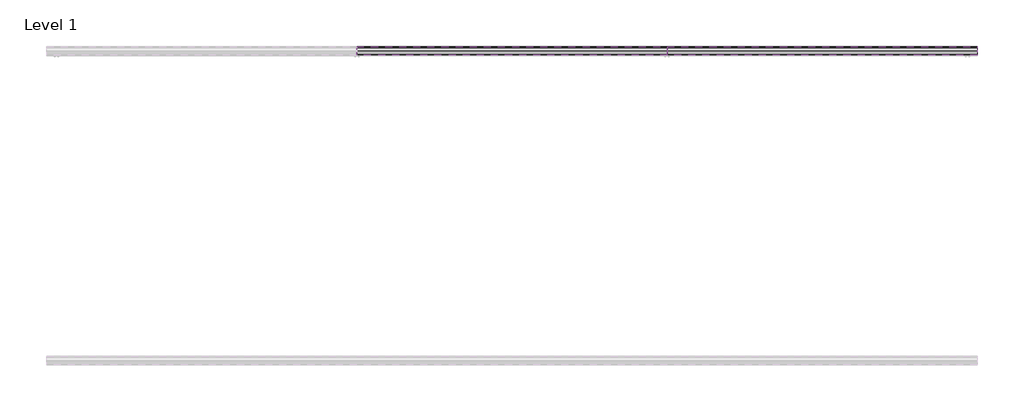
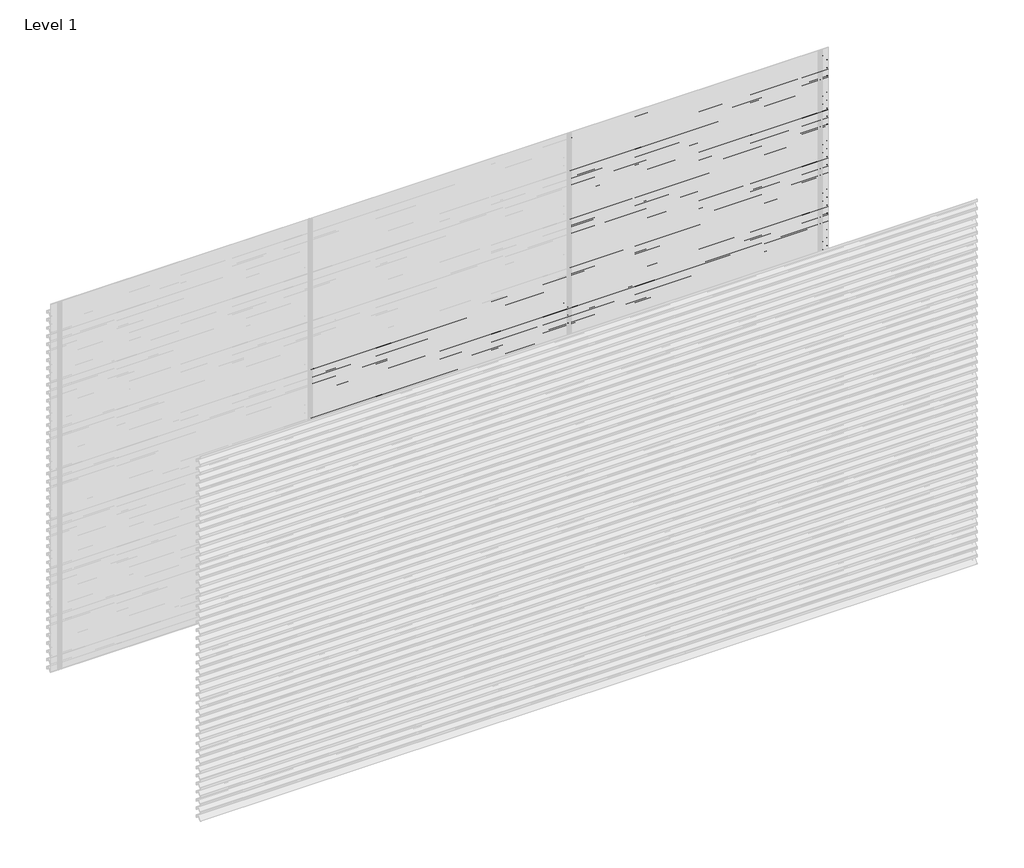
# One storey, part 27 of 27: 73 proxies.
"""IFC4 building model written with IfcOpenShell, lengths in millimetres."""

from ifc_helpers import new_model, si_unit, frame, origin, place, context, project, spatial, polyline, outline, extrude, element, save

model = new_model("IFC4")

# Units and contexts
model_context = context("Model", 3, world=origin())
ifc_project = project(units=[si_unit("LENGTHUNIT", "METRE", prefix="MILLI")], contexts=[model_context])

# Site, building, storey
site = spatial("IfcSite", under=ifc_project)
building = spatial("IfcBuilding", under=site)
storey = spatial("IfcBuildingStorey", under=building, Name="Level 1", Elevation=0.0)

# Proxies
placement = place(None, origin())
element("IfcBuildingElementProxy", 1, Name="Wall Sweeps", at=placement, inside=storey, context=model_context, shape_type="SweptSolid", body=[
    extrude(outline(polyline([(57.0, 1791.2), (57.0, 1771.5), (55.75, 1772.5866084), (55.75, 1790.4872415), (36.9677914, 1803.6010889), (4.8667025, 1771.5), (3.9474637, 1772.4192388), (35.8851913, 1804.3569665), (2.0, 1828.0158044), (2.0, 1848.0), (3.25, 1848.0), (3.25, 1828.7285629), (57.0, 1791.2)])), frame((2000.0, 0.0, 0.0), z_axis=(1.0, 0.0, 0.0), x_axis=(0.0, 1.0, 0.0)), (0.0, 0.0, 1.0), 2000.0),
])
element("IfcBuildingElementProxy", 2, Name="Wall Sweeps", at=placement, inside=storey, context=model_context, shape_type="SweptSolid", body=[
    extrude(outline(polyline([(57.0, 1725.2), (57.0, 1705.5), (55.75, 1706.5866084), (55.75, 1724.4872415), (36.9677914, 1737.6010889), (4.8667025, 1705.5), (3.9474637, 1706.4192388), (35.8851913, 1738.3569665), (2.0, 1762.0158044), (2.0, 1782.0), (3.25, 1782.0), (3.25, 1762.7285629), (57.0, 1725.2)])), frame((2000.0, 0.0, 0.0), z_axis=(1.0, 0.0, 0.0), x_axis=(0.0, 1.0, 0.0)), (0.0, 0.0, 1.0), 2000.0),
])
element("IfcBuildingElementProxy", 3, Name="Wall Sweeps", at=placement, inside=storey, context=model_context, shape_type="SweptSolid", body=[
    extrude(outline(polyline([(57.0, 1659.2), (57.0, 1639.5), (55.75, 1640.5866084), (55.75, 1658.4872415), (36.9677914, 1671.6010889), (4.8667025, 1639.5), (3.9474637, 1640.4192388), (35.8851913, 1672.3569665), (2.0, 1696.0158044), (2.0, 1716.0), (3.25, 1716.0), (3.25, 1696.7285629), (57.0, 1659.2)])), frame((2000.0, 0.0, 0.0), z_axis=(1.0, 0.0, 0.0), x_axis=(0.0, 1.0, 0.0)), (0.0, 0.0, 1.0), 2000.0),
])
element("IfcBuildingElementProxy", 4, Name="Wall Sweeps", at=placement, inside=storey, context=model_context, shape_type="SweptSolid", body=[
    extrude(outline(polyline([(57.0, 1593.2), (57.0, 1573.5), (55.75, 1574.5866084), (55.75, 1592.4872415), (36.9677914, 1605.6010889), (4.8667025, 1573.5), (3.9474637, 1574.4192388), (35.8851913, 1606.3569665), (2.0, 1630.0158044), (2.0, 1650.0), (3.25, 1650.0), (3.25, 1630.7285629), (57.0, 1593.2)])), frame((2000.0, 0.0, 0.0), z_axis=(1.0, 0.0, 0.0), x_axis=(0.0, 1.0, 0.0)), (0.0, 0.0, 1.0), 2000.0),
])
element("IfcBuildingElementProxy", 5, Name="Wall Sweeps", at=placement, inside=storey, context=model_context, shape_type="SweptSolid", body=[
    extrude(outline(polyline([(57.0, 1527.2), (57.0, 1507.5), (55.75, 1508.5866084), (55.75, 1526.4872415), (36.9677914, 1539.6010889), (4.8667025, 1507.5), (3.9474637, 1508.4192388), (35.8851913, 1540.3569665), (2.0, 1564.0158044), (2.0, 1584.0), (3.25, 1584.0), (3.25, 1564.7285629), (57.0, 1527.2)])), frame((2000.0, 0.0, 0.0), z_axis=(1.0, 0.0, 0.0), x_axis=(0.0, 1.0, 0.0)), (0.0, 0.0, 1.0), 2000.0),
])
element("IfcBuildingElementProxy", 6, Name="Wall Sweeps", at=placement, inside=storey, context=model_context, shape_type="SweptSolid", body=[
    extrude(outline(polyline([(57.0, 1461.2), (57.0, 1441.5), (55.75, 1442.5866084), (55.75, 1460.4872415), (36.9677914, 1473.6010889), (4.8667025, 1441.5), (3.9474637, 1442.4192388), (35.8851913, 1474.3569665), (2.0, 1498.0158044), (2.0, 1518.0), (3.25, 1518.0), (3.25, 1498.7285629), (57.0, 1461.2)])), frame((2000.0, 0.0, 0.0), z_axis=(1.0, 0.0, 0.0), x_axis=(0.0, 1.0, 0.0)), (0.0, 0.0, 1.0), 2000.0),
])
element("IfcBuildingElementProxy", 7, Name="Wall Sweeps", at=placement, inside=storey, context=model_context, shape_type="SweptSolid", body=[
    extrude(outline(polyline([(57.0, 1395.2), (57.0, 1375.5), (55.75, 1376.5866084), (55.75, 1394.4872415), (36.9677914, 1407.6010889), (4.8667025, 1375.5), (3.9474637, 1376.4192388), (35.8851913, 1408.3569665), (2.0, 1432.0158044), (2.0, 1452.0), (3.25, 1452.0), (3.25, 1432.7285629), (57.0, 1395.2)])), frame((2000.0, 0.0, 0.0), z_axis=(1.0, 0.0, 0.0), x_axis=(0.0, 1.0, 0.0)), (0.0, 0.0, 1.0), 2000.0),
])
element("IfcBuildingElementProxy", 8, Name="Wall Sweeps", at=placement, inside=storey, context=model_context, shape_type="SweptSolid", body=[
    extrude(outline(polyline([(57.0, 1329.2), (57.0, 1309.5), (55.75, 1310.5866084), (55.75, 1328.4872415), (36.9677914, 1341.6010889), (4.8667025, 1309.5), (3.9474637, 1310.4192388), (35.8851913, 1342.3569665), (2.0, 1366.0158044), (2.0, 1386.0), (3.25, 1386.0), (3.25, 1366.7285629), (57.0, 1329.2)])), frame((2000.0, 0.0, 0.0), z_axis=(1.0, 0.0, 0.0), x_axis=(0.0, 1.0, 0.0)), (0.0, 0.0, 1.0), 2000.0),
])
element("IfcBuildingElementProxy", 9, Name="Wall Sweeps", at=placement, inside=storey, context=model_context, shape_type="SweptSolid", body=[
    extrude(outline(polyline([(57.0, 1263.2), (57.0, 1243.5), (55.75, 1244.5866084), (55.75, 1262.4872415), (36.9677914, 1275.6010889), (4.8667025, 1243.5), (3.9474637, 1244.4192388), (35.8851913, 1276.3569665), (2.0, 1300.0158044), (2.0, 1320.0), (3.25, 1320.0), (3.25, 1300.7285629), (57.0, 1263.2)])), frame((2000.0, 0.0, 0.0), z_axis=(1.0, 0.0, 0.0), x_axis=(0.0, 1.0, 0.0)), (0.0, 0.0, 1.0), 2000.0),
])
element("IfcBuildingElementProxy", 10, Name="Wall Sweeps", at=placement, inside=storey, context=model_context, shape_type="SweptSolid", body=[
    extrude(outline(polyline([(57.0, 1197.2), (57.0, 1177.5), (55.75, 1178.5866084), (55.75, 1196.4872415), (36.9677914, 1209.6010889), (4.8667025, 1177.5), (3.9474637, 1178.4192388), (35.8851913, 1210.3569665), (2.0, 1234.0158044), (2.0, 1254.0), (3.25, 1254.0), (3.25, 1234.7285629), (57.0, 1197.2)])), frame((2000.0, 0.0, 0.0), z_axis=(1.0, 0.0, 0.0), x_axis=(0.0, 1.0, 0.0)), (0.0, 0.0, 1.0), 2000.0),
])
element("IfcBuildingElementProxy", 11, Name="Wall Sweeps", at=placement, inside=storey, context=model_context, shape_type="SweptSolid", body=[
    extrude(outline(polyline([(57.0, 1131.2), (57.0, 1111.5), (55.75, 1112.5866084), (55.75, 1130.4872415), (36.9677914, 1143.6010889), (4.8667025, 1111.5), (3.9474637, 1112.4192388), (35.8851913, 1144.3569665), (2.0, 1168.0158044), (2.0, 1188.0), (3.25, 1188.0), (3.25, 1168.7285629), (57.0, 1131.2)])), frame((2000.0, 0.0, 0.0), z_axis=(1.0, 0.0, 0.0), x_axis=(0.0, 1.0, 0.0)), (0.0, 0.0, 1.0), 2000.0),
])
element("IfcBuildingElementProxy", 12, Name="Wall Sweeps", at=placement, inside=storey, context=model_context, shape_type="SweptSolid", body=[
    extrude(outline(polyline([(57.0, 1065.2), (57.0, 1045.5), (55.75, 1046.5866084), (55.75, 1064.4872415), (36.9677914, 1077.6010889), (4.8667025, 1045.5), (3.9474637, 1046.4192388), (35.8851913, 1078.3569665), (2.0, 1102.0158044), (2.0, 1122.0), (3.25, 1122.0), (3.25, 1102.7285629), (57.0, 1065.2)])), frame((2000.0, 0.0, 0.0), z_axis=(1.0, 0.0, 0.0), x_axis=(0.0, 1.0, 0.0)), (0.0, 0.0, 1.0), 2000.0),
])
element("IfcBuildingElementProxy", 13, Name="Wall Sweeps", at=placement, inside=storey, context=model_context, shape_type="SweptSolid", body=[
    extrude(outline(polyline([(57.0, 999.2), (57.0, 979.5), (55.75, 980.5866084), (55.75, 998.4872415), (36.9677914, 1011.6010889), (4.8667025, 979.5), (3.9474637, 980.4192388), (35.8851913, 1012.3569665), (2.0, 1036.0158044), (2.0, 1056.0), (3.25, 1056.0), (3.25, 1036.7285629), (57.0, 999.2)])), frame((2000.0, 0.0, 0.0), z_axis=(1.0, 0.0, 0.0), x_axis=(0.0, 1.0, 0.0)), (0.0, 0.0, 1.0), 2000.0),
])
element("IfcBuildingElementProxy", 14, Name="Wall Sweeps", at=placement, inside=storey, context=model_context, shape_type="SweptSolid", body=[
    extrude(outline(polyline([(57.0, 933.2), (57.0, 913.5), (55.75, 914.5866084), (55.75, 932.4872415), (36.9677914, 945.6010889), (4.8667025, 913.5), (3.9474637, 914.4192388), (35.8851913, 946.3569665), (2.0, 970.0158044), (2.0, 990.0), (3.25, 990.0), (3.25, 970.7285629), (57.0, 933.2)])), frame((2000.0, 0.0, 0.0), z_axis=(1.0, 0.0, 0.0), x_axis=(0.0, 1.0, 0.0)), (0.0, 0.0, 1.0), 2000.0),
])
element("IfcBuildingElementProxy", 15, Name="Wall Sweeps", at=placement, inside=storey, context=model_context, shape_type="SweptSolid", body=[
    extrude(outline(polyline([(57.0, 867.2), (57.0, 847.5), (55.75, 848.5866084), (55.75, 866.4872415), (36.9677914, 879.6010889), (4.8667025, 847.5), (3.9474637, 848.4192388), (35.8851913, 880.3569665), (2.0, 904.0158044), (2.0, 924.0), (3.25, 924.0), (3.25, 904.7285629), (57.0, 867.2)])), frame((2000.0, 0.0, 0.0), z_axis=(1.0, 0.0, 0.0), x_axis=(0.0, 1.0, 0.0)), (0.0, 0.0, 1.0), 2000.0),
])
element("IfcBuildingElementProxy", 16, Name="Wall Sweeps", at=placement, inside=storey, context=model_context, shape_type="SweptSolid", body=[
    extrude(outline(polyline([(57.0, 801.2), (57.0, 781.5), (55.75, 782.5866084), (55.75, 800.4872415), (36.9677914, 813.6010889), (4.8667025, 781.5), (3.9474637, 782.4192388), (35.8851913, 814.3569665), (2.0, 838.0158044), (2.0, 858.0), (3.25, 858.0), (3.25, 838.7285629), (57.0, 801.2)])), frame((2000.0, 0.0, 0.0), z_axis=(1.0, 0.0, 0.0), x_axis=(0.0, 1.0, 0.0)), (0.0, 0.0, 1.0), 2000.0),
])
element("IfcBuildingElementProxy", 17, Name="Wall Sweeps", at=placement, inside=storey, context=model_context, shape_type="SweptSolid", body=[
    extrude(outline(polyline([(57.0, 735.2), (57.0, 715.5), (55.75, 716.5866084), (55.75, 734.4872415), (36.9677914, 747.6010889), (4.8667025, 715.5), (3.9474637, 716.4192388), (35.8851913, 748.3569665), (2.0, 772.0158044), (2.0, 792.0), (3.25, 792.0), (3.25, 772.7285629), (57.0, 735.2)])), frame((2000.0, 0.0, 0.0), z_axis=(1.0, 0.0, 0.0), x_axis=(0.0, 1.0, 0.0)), (0.0, 0.0, 1.0), 2000.0),
])
element("IfcBuildingElementProxy", 18, Name="Wall Sweeps", at=placement, inside=storey, context=model_context, shape_type="SweptSolid", body=[
    extrude(outline(polyline([(57.0, 669.2), (57.0, 649.5), (55.75, 650.5866084), (55.75, 668.4872415), (36.9677914, 681.6010889), (4.8667025, 649.5), (3.9474637, 650.4192388), (35.8851913, 682.3569665), (2.0, 706.0158044), (2.0, 726.0), (3.25, 726.0), (3.25, 706.7285629), (57.0, 669.2)])), frame((2000.0, 0.0, 0.0), z_axis=(1.0, 0.0, 0.0), x_axis=(0.0, 1.0, 0.0)), (0.0, 0.0, 1.0), 2000.0),
])
element("IfcBuildingElementProxy", 19, Name="Wall Sweeps", at=placement, inside=storey, context=model_context, shape_type="SweptSolid", body=[
    extrude(outline(polyline([(57.0, 603.2), (57.0, 583.5), (55.75, 584.5866084), (55.75, 602.4872415), (36.9677914, 615.6010889), (4.8667025, 583.5), (3.9474637, 584.4192388), (35.8851913, 616.3569665), (2.0, 640.0158044), (2.0, 660.0), (3.25, 660.0), (3.25, 640.7285629), (57.0, 603.2)])), frame((2000.0, 0.0, 0.0), z_axis=(1.0, 0.0, 0.0), x_axis=(0.0, 1.0, 0.0)), (0.0, 0.0, 1.0), 2000.0),
])
element("IfcBuildingElementProxy", 20, Name="Wall Sweeps", at=placement, inside=storey, context=model_context, shape_type="SweptSolid", body=[
    extrude(outline(polyline([(57.0, 537.2), (57.0, 517.5), (55.75, 518.5866084), (55.75, 536.4872415), (36.9677914, 549.6010889), (4.8667025, 517.5), (3.9474637, 518.4192388), (35.8851913, 550.3569665), (2.0, 574.0158044), (2.0, 594.0), (3.25, 594.0), (3.25, 574.7285629), (57.0, 537.2)])), frame((2000.0, 0.0, 0.0), z_axis=(1.0, 0.0, 0.0), x_axis=(0.0, 1.0, 0.0)), (0.0, 0.0, 1.0), 2000.0),
])
element("IfcBuildingElementProxy", 21, Name="Wall Sweeps", at=placement, inside=storey, context=model_context, shape_type="SweptSolid", body=[
    extrude(outline(polyline([(57.0, 471.2), (57.0, 451.5), (55.75, 452.5866084), (55.75, 470.4872415), (36.9677914, 483.6010889), (4.8667025, 451.5), (3.9474637, 452.4192388), (35.8851913, 484.3569665), (2.0, 508.0158044), (2.0, 528.0), (3.25, 528.0), (3.25, 508.7285629), (57.0, 471.2)])), frame((2000.0, 0.0, 0.0), z_axis=(1.0, 0.0, 0.0), x_axis=(0.0, 1.0, 0.0)), (0.0, 0.0, 1.0), 2000.0),
])
element("IfcBuildingElementProxy", 22, Name="Wall Sweeps", at=placement, inside=storey, context=model_context, shape_type="SweptSolid", body=[
    extrude(outline(polyline([(57.0, 405.2), (57.0, 385.5), (55.75, 386.5866084), (55.75, 404.4872415), (36.9677914, 417.6010889), (4.8667025, 385.5), (3.9474637, 386.4192388), (35.8851913, 418.3569665), (2.0, 442.0158044), (2.0, 462.0), (3.25, 462.0), (3.25, 442.7285629), (57.0, 405.2)])), frame((2000.0, 0.0, 0.0), z_axis=(1.0, 0.0, 0.0), x_axis=(0.0, 1.0, 0.0)), (0.0, 0.0, 1.0), 2000.0),
])
element("IfcBuildingElementProxy", 23, Name="Wall Sweeps", at=placement, inside=storey, context=model_context, shape_type="SweptSolid", body=[
    extrude(outline(polyline([(57.0, 339.2), (57.0, 319.5), (55.75, 320.5866084), (55.75, 338.4872415), (36.9677914, 351.6010889), (4.8667025, 319.5), (3.9474637, 320.4192388), (35.8851913, 352.3569665), (2.0, 376.0158044), (2.0, 396.0), (3.25, 396.0), (3.25, 376.7285629), (57.0, 339.2)])), frame((2000.0, 0.0, 0.0), z_axis=(1.0, 0.0, 0.0), x_axis=(0.0, 1.0, 0.0)), (0.0, 0.0, 1.0), 2000.0),
])
element("IfcBuildingElementProxy", 24, Name="Wall Sweeps", at=placement, inside=storey, context=model_context, shape_type="SweptSolid", body=[
    extrude(outline(polyline([(57.0, 273.2), (57.0, 253.5), (55.75, 254.5866084), (55.75, 272.4872415), (36.9677914, 285.6010889), (4.8667025, 253.5), (3.9474637, 254.4192388), (35.8851913, 286.3569665), (2.0, 310.0158044), (2.0, 330.0), (3.25, 330.0), (3.25, 310.7285629), (57.0, 273.2)])), frame((2000.0, 0.0, 0.0), z_axis=(1.0, 0.0, 0.0), x_axis=(0.0, 1.0, 0.0)), (0.0, 0.0, 1.0), 2000.0),
])
element("IfcBuildingElementProxy", 25, Name="Wall Sweeps", at=placement, inside=storey, context=model_context, shape_type="SweptSolid", body=[
    extrude(outline(polyline([(57.0, 207.2), (57.0, 187.5), (55.75, 188.5866084), (55.75, 206.4872415), (36.9677914, 219.6010889), (4.8667025, 187.5), (3.9474637, 188.4192388), (35.8851913, 220.3569665), (2.0, 244.0158044), (2.0, 264.0), (3.25, 264.0), (3.25, 244.7285629), (57.0, 207.2)])), frame((2000.0, 0.0, 0.0), z_axis=(1.0, 0.0, 0.0), x_axis=(0.0, 1.0, 0.0)), (0.0, 0.0, 1.0), 2000.0),
])
element("IfcBuildingElementProxy", 26, Name="Wall Sweeps", at=placement, inside=storey, context=model_context, shape_type="SweptSolid", body=[
    extrude(outline(polyline([(57.0, 141.2), (57.0, 121.5), (55.75, 122.5866084), (55.75, 140.4872415), (36.9677914, 153.6010889), (4.8667025, 121.5), (3.9474637, 122.4192388), (35.8851913, 154.3569665), (2.0, 178.0158044), (2.0, 198.0), (3.25, 198.0), (3.25, 178.7285629), (57.0, 141.2)])), frame((2000.0, 0.0, 0.0), z_axis=(1.0, 0.0, 0.0), x_axis=(0.0, 1.0, 0.0)), (0.0, 0.0, 1.0), 2000.0),
])
element("IfcBuildingElementProxy", 27, Name="Wall Sweeps", at=placement, inside=storey, context=model_context, shape_type="SweptSolid", body=[
    extrude(outline(polyline([(57.0, 75.2), (57.0, 55.5), (55.75, 56.5866084), (55.75, 74.4872415), (36.9677914, 87.6010889), (4.8667025, 55.5), (3.9474637, 56.4192388), (35.8851913, 88.3569665), (2.0, 112.0158044), (2.0, 132.0), (3.25, 132.0), (3.25, 112.7285629), (57.0, 75.2)])), frame((2000.0, 0.0, 0.0), z_axis=(1.0, 0.0, 0.0), x_axis=(0.0, 1.0, 0.0)), (0.0, 0.0, 1.0), 2000.0),
])
element("IfcBuildingElementProxy", 28, Name="Wall Sweeps", at=placement, inside=storey, context=model_context, shape_type="SweptSolid", body=[
    extrude(outline(polyline([(57.0, 9.2), (57.0, -10.5), (55.75, -9.4133916), (55.75, 8.4872415), (36.9677914, 21.6010889), (4.8667025, -10.5), (3.9474637, -9.5807612), (35.8851913, 22.3569665), (2.0, 46.0158044), (2.0, 66.0), (3.25, 66.0), (3.25, 46.7285629), (57.0, 9.2)])), frame((2000.0, 0.0, 0.0), z_axis=(1.0, 0.0, 0.0), x_axis=(0.0, 1.0, 0.0)), (0.0, 0.0, 1.0), 2000.0),
])
element("IfcBuildingElementProxy", 29, Name="Wall Sweeps", at=placement, inside=storey, context=model_context, shape_type="SweptSolid", body=[
    extrude(outline(polyline([(57.0, 2913.2), (57.0, 2893.5), (55.75, 2894.5866084), (55.75, 2912.4872415), (36.9677914, 2925.6010889), (4.8667025, 2893.5), (3.9474637, 2894.4192388), (35.8851913, 2926.3569665), (2.0, 2950.0158044), (2.0, 2970.0), (3.25, 2970.0), (3.25, 2950.7285629), (57.0, 2913.2)])), frame((4000.0, 0.0, 0.0), z_axis=(1.0, 0.0, 0.0), x_axis=(0.0, 1.0, 0.0)), (0.0, 0.0, 1.0), 2000.0),
])
element("IfcBuildingElementProxy", 30, Name="Wall Sweeps", at=placement, inside=storey, context=model_context, shape_type="SweptSolid", body=[
    extrude(outline(polyline([(57.0, 2847.2), (57.0, 2827.5), (55.75, 2828.5866084), (55.75, 2846.4872415), (36.9677914, 2859.6010889), (4.8667025, 2827.5), (3.9474637, 2828.4192388), (35.8851913, 2860.3569665), (2.0, 2884.0158044), (2.0, 2904.0), (3.25, 2904.0), (3.25, 2884.7285629), (57.0, 2847.2)])), frame((4000.0, 0.0, 0.0), z_axis=(1.0, 0.0, 0.0), x_axis=(0.0, 1.0, 0.0)), (0.0, 0.0, 1.0), 2000.0),
])
element("IfcBuildingElementProxy", 31, Name="Wall Sweeps", at=placement, inside=storey, context=model_context, shape_type="SweptSolid", body=[
    extrude(outline(polyline([(57.0, 2781.2), (57.0, 2761.5), (55.75, 2762.5866084), (55.75, 2780.4872415), (36.9677914, 2793.6010889), (4.8667025, 2761.5), (3.9474637, 2762.4192388), (35.8851913, 2794.3569665), (2.0, 2818.0158044), (2.0, 2838.0), (3.25, 2838.0), (3.25, 2818.7285629), (57.0, 2781.2)])), frame((4000.0, 0.0, 0.0), z_axis=(1.0, 0.0, 0.0), x_axis=(0.0, 1.0, 0.0)), (0.0, 0.0, 1.0), 2000.0),
])
element("IfcBuildingElementProxy", 32, Name="Wall Sweeps", at=placement, inside=storey, context=model_context, shape_type="SweptSolid", body=[
    extrude(outline(polyline([(57.0, 2715.2), (57.0, 2695.5), (55.75, 2696.5866084), (55.75, 2714.4872415), (36.9677914, 2727.6010889), (4.8667025, 2695.5), (3.9474637, 2696.4192388), (35.8851913, 2728.3569665), (2.0, 2752.0158044), (2.0, 2772.0), (3.25, 2772.0), (3.25, 2752.7285629), (57.0, 2715.2)])), frame((4000.0, 0.0, 0.0), z_axis=(1.0, 0.0, 0.0), x_axis=(0.0, 1.0, 0.0)), (0.0, 0.0, 1.0), 2000.0),
])
element("IfcBuildingElementProxy", 33, Name="Wall Sweeps", at=placement, inside=storey, context=model_context, shape_type="SweptSolid", body=[
    extrude(outline(polyline([(57.0, 2649.2), (57.0, 2629.5), (55.75, 2630.5866084), (55.75, 2648.4872415), (36.9677914, 2661.6010889), (4.8667025, 2629.5), (3.9474637, 2630.4192388), (35.8851913, 2662.3569665), (2.0, 2686.0158044), (2.0, 2706.0), (3.25, 2706.0), (3.25, 2686.7285629), (57.0, 2649.2)])), frame((4000.0, 0.0, 0.0), z_axis=(1.0, 0.0, 0.0), x_axis=(0.0, 1.0, 0.0)), (0.0, 0.0, 1.0), 2000.0),
])
element("IfcBuildingElementProxy", 34, Name="Wall Sweeps", at=placement, inside=storey, context=model_context, shape_type="SweptSolid", body=[
    extrude(outline(polyline([(57.0, 2583.2), (57.0, 2563.5), (55.75, 2564.5866084), (55.75, 2582.4872415), (36.9677914, 2595.6010889), (4.8667025, 2563.5), (3.9474637, 2564.4192388), (35.8851913, 2596.3569665), (2.0, 2620.0158044), (2.0, 2640.0), (3.25, 2640.0), (3.25, 2620.7285629), (57.0, 2583.2)])), frame((4000.0, 0.0, 0.0), z_axis=(1.0, 0.0, 0.0), x_axis=(0.0, 1.0, 0.0)), (0.0, 0.0, 1.0), 2000.0),
])
element("IfcBuildingElementProxy", 35, Name="Wall Sweeps", at=placement, inside=storey, context=model_context, shape_type="SweptSolid", body=[
    extrude(outline(polyline([(57.0, 2517.2), (57.0, 2497.5), (55.75, 2498.5866084), (55.75, 2516.4872415), (36.9677914, 2529.6010889), (4.8667025, 2497.5), (3.9474637, 2498.4192388), (35.8851913, 2530.3569665), (2.0, 2554.0158044), (2.0, 2574.0), (3.25, 2574.0), (3.25, 2554.7285629), (57.0, 2517.2)])), frame((4000.0, 0.0, 0.0), z_axis=(1.0, 0.0, 0.0), x_axis=(0.0, 1.0, 0.0)), (0.0, 0.0, 1.0), 2000.0),
])
element("IfcBuildingElementProxy", 36, Name="Wall Sweeps", at=placement, inside=storey, context=model_context, shape_type="SweptSolid", body=[
    extrude(outline(polyline([(57.0, 2451.2), (57.0, 2431.5), (55.75, 2432.5866084), (55.75, 2450.4872415), (36.9677914, 2463.6010889), (4.8667025, 2431.5), (3.9474637, 2432.4192388), (35.8851913, 2464.3569665), (2.0, 2488.0158044), (2.0, 2508.0), (3.25, 2508.0), (3.25, 2488.7285629), (57.0, 2451.2)])), frame((4000.0, 0.0, 0.0), z_axis=(1.0, 0.0, 0.0), x_axis=(0.0, 1.0, 0.0)), (0.0, 0.0, 1.0), 2000.0),
])
element("IfcBuildingElementProxy", 37, Name="Wall Sweeps", at=placement, inside=storey, context=model_context, shape_type="SweptSolid", body=[
    extrude(outline(polyline([(57.0, 2385.2), (57.0, 2365.5), (55.75, 2366.5866084), (55.75, 2384.4872415), (36.9677914, 2397.6010889), (4.8667025, 2365.5), (3.9474637, 2366.4192388), (35.8851913, 2398.3569665), (2.0, 2422.0158044), (2.0, 2442.0), (3.25, 2442.0), (3.25, 2422.7285629), (57.0, 2385.2)])), frame((4000.0, 0.0, 0.0), z_axis=(1.0, 0.0, 0.0), x_axis=(0.0, 1.0, 0.0)), (0.0, 0.0, 1.0), 2000.0),
])
element("IfcBuildingElementProxy", 38, Name="Wall Sweeps", at=placement, inside=storey, context=model_context, shape_type="SweptSolid", body=[
    extrude(outline(polyline([(57.0, 2319.2), (57.0, 2299.5), (55.75, 2300.5866084), (55.75, 2318.4872415), (36.9677914, 2331.6010889), (4.8667025, 2299.5), (3.9474637, 2300.4192388), (35.8851913, 2332.3569665), (2.0, 2356.0158044), (2.0, 2376.0), (3.25, 2376.0), (3.25, 2356.7285629), (57.0, 2319.2)])), frame((4000.0, 0.0, 0.0), z_axis=(1.0, 0.0, 0.0), x_axis=(0.0, 1.0, 0.0)), (0.0, 0.0, 1.0), 2000.0),
])
element("IfcBuildingElementProxy", 39, Name="Wall Sweeps", at=placement, inside=storey, context=model_context, shape_type="SweptSolid", body=[
    extrude(outline(polyline([(57.0, 2253.2), (57.0, 2233.5), (55.75, 2234.5866084), (55.75, 2252.4872415), (36.9677914, 2265.6010889), (4.8667025, 2233.5), (3.9474637, 2234.4192388), (35.8851913, 2266.3569665), (2.0, 2290.0158044), (2.0, 2310.0), (3.25, 2310.0), (3.25, 2290.7285629), (57.0, 2253.2)])), frame((4000.0, 0.0, 0.0), z_axis=(1.0, 0.0, 0.0), x_axis=(0.0, 1.0, 0.0)), (0.0, 0.0, 1.0), 2000.0),
])
element("IfcBuildingElementProxy", 40, Name="Wall Sweeps", at=placement, inside=storey, context=model_context, shape_type="SweptSolid", body=[
    extrude(outline(polyline([(57.0, 2187.2), (57.0, 2167.5), (55.75, 2168.5866084), (55.75, 2186.4872415), (36.9677914, 2199.6010889), (4.8667025, 2167.5), (3.9474637, 2168.4192388), (35.8851913, 2200.3569665), (2.0, 2224.0158044), (2.0, 2244.0), (3.25, 2244.0), (3.25, 2224.7285629), (57.0, 2187.2)])), frame((4000.0, 0.0, 0.0), z_axis=(1.0, 0.0, 0.0), x_axis=(0.0, 1.0, 0.0)), (0.0, 0.0, 1.0), 2000.0),
])
element("IfcBuildingElementProxy", 41, Name="Wall Sweeps", at=placement, inside=storey, context=model_context, shape_type="SweptSolid", body=[
    extrude(outline(polyline([(57.0, 2121.2), (57.0, 2101.5), (55.75, 2102.5866084), (55.75, 2120.4872415), (36.9677914, 2133.6010889), (4.8667025, 2101.5), (3.9474637, 2102.4192388), (35.8851913, 2134.3569665), (2.0, 2158.0158044), (2.0, 2178.0), (3.25, 2178.0), (3.25, 2158.7285629), (57.0, 2121.2)])), frame((4000.0, 0.0, 0.0), z_axis=(1.0, 0.0, 0.0), x_axis=(0.0, 1.0, 0.0)), (0.0, 0.0, 1.0), 2000.0),
])
element("IfcBuildingElementProxy", 42, Name="Wall Sweeps", at=placement, inside=storey, context=model_context, shape_type="SweptSolid", body=[
    extrude(outline(polyline([(57.0, 2055.2), (57.0, 2035.5), (55.75, 2036.5866084), (55.75, 2054.4872415), (36.9677914, 2067.6010889), (4.8667025, 2035.5), (3.9474637, 2036.4192388), (35.8851913, 2068.3569665), (2.0, 2092.0158044), (2.0, 2112.0), (3.25, 2112.0), (3.25, 2092.7285629), (57.0, 2055.2)])), frame((4000.0, 0.0, 0.0), z_axis=(1.0, 0.0, 0.0), x_axis=(0.0, 1.0, 0.0)), (0.0, 0.0, 1.0), 2000.0),
])
element("IfcBuildingElementProxy", 43, Name="Wall Sweeps", at=placement, inside=storey, context=model_context, shape_type="SweptSolid", body=[
    extrude(outline(polyline([(57.0, 1989.2), (57.0, 1969.5), (55.75, 1970.5866084), (55.75, 1988.4872415), (36.9677914, 2001.6010889), (4.8667025, 1969.5), (3.9474637, 1970.4192388), (35.8851913, 2002.3569665), (2.0, 2026.0158044), (2.0, 2046.0), (3.25, 2046.0), (3.25, 2026.7285629), (57.0, 1989.2)])), frame((4000.0, 0.0, 0.0), z_axis=(1.0, 0.0, 0.0), x_axis=(0.0, 1.0, 0.0)), (0.0, 0.0, 1.0), 2000.0),
])
element("IfcBuildingElementProxy", 44, Name="Wall Sweeps", at=placement, inside=storey, context=model_context, shape_type="SweptSolid", body=[
    extrude(outline(polyline([(57.0, 1923.2), (57.0, 1903.5), (55.75, 1904.5866084), (55.75, 1922.4872415), (36.9677914, 1935.6010889), (4.8667025, 1903.5), (3.9474637, 1904.4192388), (35.8851913, 1936.3569665), (2.0, 1960.0158044), (2.0, 1980.0), (3.25, 1980.0), (3.25, 1960.7285629), (57.0, 1923.2)])), frame((4000.0, 0.0, 0.0), z_axis=(1.0, 0.0, 0.0), x_axis=(0.0, 1.0, 0.0)), (0.0, 0.0, 1.0), 2000.0),
])
element("IfcBuildingElementProxy", 45, Name="Wall Sweeps", at=placement, inside=storey, context=model_context, shape_type="SweptSolid", body=[
    extrude(outline(polyline([(57.0, 1857.2), (57.0, 1837.5), (55.75, 1838.5866084), (55.75, 1856.4872415), (36.9677914, 1869.6010889), (4.8667025, 1837.5), (3.9474637, 1838.4192388), (35.8851913, 1870.3569665), (2.0, 1894.0158044), (2.0, 1914.0), (3.25, 1914.0), (3.25, 1894.7285629), (57.0, 1857.2)])), frame((4000.0, 0.0, 0.0), z_axis=(1.0, 0.0, 0.0), x_axis=(0.0, 1.0, 0.0)), (0.0, 0.0, 1.0), 2000.0),
])
element("IfcBuildingElementProxy", 46, Name="Wall Sweeps", at=placement, inside=storey, context=model_context, shape_type="SweptSolid", body=[
    extrude(outline(polyline([(57.0, 1791.2), (57.0, 1771.5), (55.75, 1772.5866084), (55.75, 1790.4872415), (36.9677914, 1803.6010889), (4.8667025, 1771.5), (3.9474637, 1772.4192388), (35.8851913, 1804.3569665), (2.0, 1828.0158044), (2.0, 1848.0), (3.25, 1848.0), (3.25, 1828.7285629), (57.0, 1791.2)])), frame((4000.0, 0.0, 0.0), z_axis=(1.0, 0.0, 0.0), x_axis=(0.0, 1.0, 0.0)), (0.0, 0.0, 1.0), 2000.0),
])
element("IfcBuildingElementProxy", 47, Name="Wall Sweeps", at=placement, inside=storey, context=model_context, shape_type="SweptSolid", body=[
    extrude(outline(polyline([(57.0, 1725.2), (57.0, 1705.5), (55.75, 1706.5866084), (55.75, 1724.4872415), (36.9677914, 1737.6010889), (4.8667025, 1705.5), (3.9474637, 1706.4192388), (35.8851913, 1738.3569665), (2.0, 1762.0158044), (2.0, 1782.0), (3.25, 1782.0), (3.25, 1762.7285629), (57.0, 1725.2)])), frame((4000.0, 0.0, 0.0), z_axis=(1.0, 0.0, 0.0), x_axis=(0.0, 1.0, 0.0)), (0.0, 0.0, 1.0), 2000.0),
])
element("IfcBuildingElementProxy", 48, Name="Wall Sweeps", at=placement, inside=storey, context=model_context, shape_type="SweptSolid", body=[
    extrude(outline(polyline([(57.0, 1659.2), (57.0, 1639.5), (55.75, 1640.5866084), (55.75, 1658.4872415), (36.9677914, 1671.6010889), (4.8667025, 1639.5), (3.9474637, 1640.4192388), (35.8851913, 1672.3569665), (2.0, 1696.0158044), (2.0, 1716.0), (3.25, 1716.0), (3.25, 1696.7285629), (57.0, 1659.2)])), frame((4000.0, 0.0, 0.0), z_axis=(1.0, 0.0, 0.0), x_axis=(0.0, 1.0, 0.0)), (0.0, 0.0, 1.0), 2000.0),
])
element("IfcBuildingElementProxy", 49, Name="Wall Sweeps", at=placement, inside=storey, context=model_context, shape_type="SweptSolid", body=[
    extrude(outline(polyline([(57.0, 1593.2), (57.0, 1573.5), (55.75, 1574.5866084), (55.75, 1592.4872415), (36.9677914, 1605.6010889), (4.8667025, 1573.5), (3.9474637, 1574.4192388), (35.8851913, 1606.3569665), (2.0, 1630.0158044), (2.0, 1650.0), (3.25, 1650.0), (3.25, 1630.7285629), (57.0, 1593.2)])), frame((4000.0, 0.0, 0.0), z_axis=(1.0, 0.0, 0.0), x_axis=(0.0, 1.0, 0.0)), (0.0, 0.0, 1.0), 2000.0),
])
element("IfcBuildingElementProxy", 50, Name="Wall Sweeps", at=placement, inside=storey, context=model_context, shape_type="SweptSolid", body=[
    extrude(outline(polyline([(57.0, 1527.2), (57.0, 1507.5), (55.75, 1508.5866084), (55.75, 1526.4872415), (36.9677914, 1539.6010889), (4.8667025, 1507.5), (3.9474637, 1508.4192388), (35.8851913, 1540.3569665), (2.0, 1564.0158044), (2.0, 1584.0), (3.25, 1584.0), (3.25, 1564.7285629), (57.0, 1527.2)])), frame((4000.0, 0.0, 0.0), z_axis=(1.0, 0.0, 0.0), x_axis=(0.0, 1.0, 0.0)), (0.0, 0.0, 1.0), 2000.0),
])
element("IfcBuildingElementProxy", 51, Name="Wall Sweeps", at=placement, inside=storey, context=model_context, shape_type="SweptSolid", body=[
    extrude(outline(polyline([(57.0, 1461.2), (57.0, 1441.5), (55.75, 1442.5866084), (55.75, 1460.4872415), (36.9677914, 1473.6010889), (4.8667025, 1441.5), (3.9474637, 1442.4192388), (35.8851913, 1474.3569665), (2.0, 1498.0158044), (2.0, 1518.0), (3.25, 1518.0), (3.25, 1498.7285629), (57.0, 1461.2)])), frame((4000.0, 0.0, 0.0), z_axis=(1.0, 0.0, 0.0), x_axis=(0.0, 1.0, 0.0)), (0.0, 0.0, 1.0), 2000.0),
])
element("IfcBuildingElementProxy", 52, Name="Wall Sweeps", at=placement, inside=storey, context=model_context, shape_type="SweptSolid", body=[
    extrude(outline(polyline([(57.0, 1395.2), (57.0, 1375.5), (55.75, 1376.5866084), (55.75, 1394.4872415), (36.9677914, 1407.6010889), (4.8667025, 1375.5), (3.9474637, 1376.4192388), (35.8851913, 1408.3569665), (2.0, 1432.0158044), (2.0, 1452.0), (3.25, 1452.0), (3.25, 1432.7285629), (57.0, 1395.2)])), frame((4000.0, 0.0, 0.0), z_axis=(1.0, 0.0, 0.0), x_axis=(0.0, 1.0, 0.0)), (0.0, 0.0, 1.0), 2000.0),
])
element("IfcBuildingElementProxy", 53, Name="Wall Sweeps", at=placement, inside=storey, context=model_context, shape_type="SweptSolid", body=[
    extrude(outline(polyline([(57.0, 1329.2), (57.0, 1309.5), (55.75, 1310.5866084), (55.75, 1328.4872415), (36.9677914, 1341.6010889), (4.8667025, 1309.5), (3.9474637, 1310.4192388), (35.8851913, 1342.3569665), (2.0, 1366.0158044), (2.0, 1386.0), (3.25, 1386.0), (3.25, 1366.7285629), (57.0, 1329.2)])), frame((4000.0, 0.0, 0.0), z_axis=(1.0, 0.0, 0.0), x_axis=(0.0, 1.0, 0.0)), (0.0, 0.0, 1.0), 2000.0),
])
element("IfcBuildingElementProxy", 54, Name="Wall Sweeps", at=placement, inside=storey, context=model_context, shape_type="SweptSolid", body=[
    extrude(outline(polyline([(57.0, 1263.2), (57.0, 1243.5), (55.75, 1244.5866084), (55.75, 1262.4872415), (36.9677914, 1275.6010889), (4.8667025, 1243.5), (3.9474637, 1244.4192388), (35.8851913, 1276.3569665), (2.0, 1300.0158044), (2.0, 1320.0), (3.25, 1320.0), (3.25, 1300.7285629), (57.0, 1263.2)])), frame((4000.0, 0.0, 0.0), z_axis=(1.0, 0.0, 0.0), x_axis=(0.0, 1.0, 0.0)), (0.0, 0.0, 1.0), 2000.0),
])
element("IfcBuildingElementProxy", 55, Name="Wall Sweeps", at=placement, inside=storey, context=model_context, shape_type="SweptSolid", body=[
    extrude(outline(polyline([(57.0, 1197.2), (57.0, 1177.5), (55.75, 1178.5866084), (55.75, 1196.4872415), (36.9677914, 1209.6010889), (4.8667025, 1177.5), (3.9474637, 1178.4192388), (35.8851913, 1210.3569665), (2.0, 1234.0158044), (2.0, 1254.0), (3.25, 1254.0), (3.25, 1234.7285629), (57.0, 1197.2)])), frame((4000.0, 0.0, 0.0), z_axis=(1.0, 0.0, 0.0), x_axis=(0.0, 1.0, 0.0)), (0.0, 0.0, 1.0), 2000.0),
])
element("IfcBuildingElementProxy", 56, Name="Wall Sweeps", at=placement, inside=storey, context=model_context, shape_type="SweptSolid", body=[
    extrude(outline(polyline([(57.0, 1131.2), (57.0, 1111.5), (55.75, 1112.5866084), (55.75, 1130.4872415), (36.9677914, 1143.6010889), (4.8667025, 1111.5), (3.9474637, 1112.4192388), (35.8851913, 1144.3569665), (2.0, 1168.0158044), (2.0, 1188.0), (3.25, 1188.0), (3.25, 1168.7285629), (57.0, 1131.2)])), frame((4000.0, 0.0, 0.0), z_axis=(1.0, 0.0, 0.0), x_axis=(0.0, 1.0, 0.0)), (0.0, 0.0, 1.0), 2000.0),
])
element("IfcBuildingElementProxy", 57, Name="Wall Sweeps", at=placement, inside=storey, context=model_context, shape_type="SweptSolid", body=[
    extrude(outline(polyline([(57.0, 1065.2), (57.0, 1045.5), (55.75, 1046.5866084), (55.75, 1064.4872415), (36.9677914, 1077.6010889), (4.8667025, 1045.5), (3.9474637, 1046.4192388), (35.8851913, 1078.3569665), (2.0, 1102.0158044), (2.0, 1122.0), (3.25, 1122.0), (3.25, 1102.7285629), (57.0, 1065.2)])), frame((4000.0, 0.0, 0.0), z_axis=(1.0, 0.0, 0.0), x_axis=(0.0, 1.0, 0.0)), (0.0, 0.0, 1.0), 2000.0),
])
element("IfcBuildingElementProxy", 58, Name="Wall Sweeps", at=placement, inside=storey, context=model_context, shape_type="SweptSolid", body=[
    extrude(outline(polyline([(57.0, 999.2), (57.0, 979.5), (55.75, 980.5866084), (55.75, 998.4872415), (36.9677914, 1011.6010889), (4.8667025, 979.5), (3.9474637, 980.4192388), (35.8851913, 1012.3569665), (2.0, 1036.0158044), (2.0, 1056.0), (3.25, 1056.0), (3.25, 1036.7285629), (57.0, 999.2)])), frame((4000.0, 0.0, 0.0), z_axis=(1.0, 0.0, 0.0), x_axis=(0.0, 1.0, 0.0)), (0.0, 0.0, 1.0), 2000.0),
])
element("IfcBuildingElementProxy", 59, Name="Wall Sweeps", at=placement, inside=storey, context=model_context, shape_type="SweptSolid", body=[
    extrude(outline(polyline([(57.0, 933.2), (57.0, 913.5), (55.75, 914.5866084), (55.75, 932.4872415), (36.9677914, 945.6010889), (4.8667025, 913.5), (3.9474637, 914.4192388), (35.8851913, 946.3569665), (2.0, 970.0158044), (2.0, 990.0), (3.25, 990.0), (3.25, 970.7285629), (57.0, 933.2)])), frame((4000.0, 0.0, 0.0), z_axis=(1.0, 0.0, 0.0), x_axis=(0.0, 1.0, 0.0)), (0.0, 0.0, 1.0), 2000.0),
])
element("IfcBuildingElementProxy", 60, Name="Wall Sweeps", at=placement, inside=storey, context=model_context, shape_type="SweptSolid", body=[
    extrude(outline(polyline([(57.0, 867.2), (57.0, 847.5), (55.75, 848.5866084), (55.75, 866.4872415), (36.9677914, 879.6010889), (4.8667025, 847.5), (3.9474637, 848.4192388), (35.8851913, 880.3569665), (2.0, 904.0158044), (2.0, 924.0), (3.25, 924.0), (3.25, 904.7285629), (57.0, 867.2)])), frame((4000.0, 0.0, 0.0), z_axis=(1.0, 0.0, 0.0), x_axis=(0.0, 1.0, 0.0)), (0.0, 0.0, 1.0), 2000.0),
])
element("IfcBuildingElementProxy", 61, Name="Wall Sweeps", at=placement, inside=storey, context=model_context, shape_type="SweptSolid", body=[
    extrude(outline(polyline([(57.0, 801.2), (57.0, 781.5), (55.75, 782.5866084), (55.75, 800.4872415), (36.9677914, 813.6010889), (4.8667025, 781.5), (3.9474637, 782.4192388), (35.8851913, 814.3569665), (2.0, 838.0158044), (2.0, 858.0), (3.25, 858.0), (3.25, 838.7285629), (57.0, 801.2)])), frame((4000.0, 0.0, 0.0), z_axis=(1.0, 0.0, 0.0), x_axis=(0.0, 1.0, 0.0)), (0.0, 0.0, 1.0), 2000.0),
])
element("IfcBuildingElementProxy", 62, Name="Wall Sweeps", at=placement, inside=storey, context=model_context, shape_type="SweptSolid", body=[
    extrude(outline(polyline([(57.0, 735.2), (57.0, 715.5), (55.75, 716.5866084), (55.75, 734.4872415), (36.9677914, 747.6010889), (4.8667025, 715.5), (3.9474637, 716.4192388), (35.8851913, 748.3569665), (2.0, 772.0158044), (2.0, 792.0), (3.25, 792.0), (3.25, 772.7285629), (57.0, 735.2)])), frame((4000.0, 0.0, 0.0), z_axis=(1.0, 0.0, 0.0), x_axis=(0.0, 1.0, 0.0)), (0.0, 0.0, 1.0), 2000.0),
])
element("IfcBuildingElementProxy", 63, Name="Wall Sweeps", at=placement, inside=storey, context=model_context, shape_type="SweptSolid", body=[
    extrude(outline(polyline([(57.0, 669.2), (57.0, 649.5), (55.75, 650.5866084), (55.75, 668.4872415), (36.9677914, 681.6010889), (4.8667025, 649.5), (3.9474637, 650.4192388), (35.8851913, 682.3569665), (2.0, 706.0158044), (2.0, 726.0), (3.25, 726.0), (3.25, 706.7285629), (57.0, 669.2)])), frame((4000.0, 0.0, 0.0), z_axis=(1.0, 0.0, 0.0), x_axis=(0.0, 1.0, 0.0)), (0.0, 0.0, 1.0), 2000.0),
])
element("IfcBuildingElementProxy", 64, Name="Wall Sweeps", at=placement, inside=storey, context=model_context, shape_type="SweptSolid", body=[
    extrude(outline(polyline([(57.0, 603.2), (57.0, 583.5), (55.75, 584.5866084), (55.75, 602.4872415), (36.9677914, 615.6010889), (4.8667025, 583.5), (3.9474637, 584.4192388), (35.8851913, 616.3569665), (2.0, 640.0158044), (2.0, 660.0), (3.25, 660.0), (3.25, 640.7285629), (57.0, 603.2)])), frame((4000.0, 0.0, 0.0), z_axis=(1.0, 0.0, 0.0), x_axis=(0.0, 1.0, 0.0)), (0.0, 0.0, 1.0), 2000.0),
])
element("IfcBuildingElementProxy", 65, Name="Wall Sweeps", at=placement, inside=storey, context=model_context, shape_type="SweptSolid", body=[
    extrude(outline(polyline([(57.0, 537.2), (57.0, 517.5), (55.75, 518.5866084), (55.75, 536.4872415), (36.9677914, 549.6010889), (4.8667025, 517.5), (3.9474637, 518.4192388), (35.8851913, 550.3569665), (2.0, 574.0158044), (2.0, 594.0), (3.25, 594.0), (3.25, 574.7285629), (57.0, 537.2)])), frame((4000.0, 0.0, 0.0), z_axis=(1.0, 0.0, 0.0), x_axis=(0.0, 1.0, 0.0)), (0.0, 0.0, 1.0), 2000.0),
])
element("IfcBuildingElementProxy", 66, Name="Wall Sweeps", at=placement, inside=storey, context=model_context, shape_type="SweptSolid", body=[
    extrude(outline(polyline([(57.0, 471.2), (57.0, 451.5), (55.75, 452.5866084), (55.75, 470.4872415), (36.9677914, 483.6010889), (4.8667025, 451.5), (3.9474637, 452.4192388), (35.8851913, 484.3569665), (2.0, 508.0158044), (2.0, 528.0), (3.25, 528.0), (3.25, 508.7285629), (57.0, 471.2)])), frame((4000.0, 0.0, 0.0), z_axis=(1.0, 0.0, 0.0), x_axis=(0.0, 1.0, 0.0)), (0.0, 0.0, 1.0), 2000.0),
])
element("IfcBuildingElementProxy", 67, Name="Wall Sweeps", at=placement, inside=storey, context=model_context, shape_type="SweptSolid", body=[
    extrude(outline(polyline([(57.0, 405.2), (57.0, 385.5), (55.75, 386.5866084), (55.75, 404.4872415), (36.9677914, 417.6010889), (4.8667025, 385.5), (3.9474637, 386.4192388), (35.8851913, 418.3569665), (2.0, 442.0158044), (2.0, 462.0), (3.25, 462.0), (3.25, 442.7285629), (57.0, 405.2)])), frame((4000.0, 0.0, 0.0), z_axis=(1.0, 0.0, 0.0), x_axis=(0.0, 1.0, 0.0)), (0.0, 0.0, 1.0), 2000.0),
])
element("IfcBuildingElementProxy", 68, Name="Wall Sweeps", at=placement, inside=storey, context=model_context, shape_type="SweptSolid", body=[
    extrude(outline(polyline([(57.0, 339.2), (57.0, 319.5), (55.75, 320.5866084), (55.75, 338.4872415), (36.9677914, 351.6010889), (4.8667025, 319.5), (3.9474637, 320.4192388), (35.8851913, 352.3569665), (2.0, 376.0158044), (2.0, 396.0), (3.25, 396.0), (3.25, 376.7285629), (57.0, 339.2)])), frame((4000.0, 0.0, 0.0), z_axis=(1.0, 0.0, 0.0), x_axis=(0.0, 1.0, 0.0)), (0.0, 0.0, 1.0), 2000.0),
])
element("IfcBuildingElementProxy", 69, Name="Wall Sweeps", at=placement, inside=storey, context=model_context, shape_type="SweptSolid", body=[
    extrude(outline(polyline([(57.0, 273.2), (57.0, 253.5), (55.75, 254.5866084), (55.75, 272.4872415), (36.9677914, 285.6010889), (4.8667025, 253.5), (3.9474637, 254.4192388), (35.8851913, 286.3569665), (2.0, 310.0158044), (2.0, 330.0), (3.25, 330.0), (3.25, 310.7285629), (57.0, 273.2)])), frame((4000.0, 0.0, 0.0), z_axis=(1.0, 0.0, 0.0), x_axis=(0.0, 1.0, 0.0)), (0.0, 0.0, 1.0), 2000.0),
])
element("IfcBuildingElementProxy", 70, Name="Wall Sweeps", at=placement, inside=storey, context=model_context, shape_type="SweptSolid", body=[
    extrude(outline(polyline([(57.0, 207.2), (57.0, 187.5), (55.75, 188.5866084), (55.75, 206.4872415), (36.9677914, 219.6010889), (4.8667025, 187.5), (3.9474637, 188.4192388), (35.8851913, 220.3569665), (2.0, 244.0158044), (2.0, 264.0), (3.25, 264.0), (3.25, 244.7285629), (57.0, 207.2)])), frame((4000.0, 0.0, 0.0), z_axis=(1.0, 0.0, 0.0), x_axis=(0.0, 1.0, 0.0)), (0.0, 0.0, 1.0), 2000.0),
])
element("IfcBuildingElementProxy", 71, Name="Wall Sweeps", at=placement, inside=storey, context=model_context, shape_type="SweptSolid", body=[
    extrude(outline(polyline([(57.0, 141.2), (57.0, 121.5), (55.75, 122.5866084), (55.75, 140.4872415), (36.9677914, 153.6010889), (4.8667025, 121.5), (3.9474637, 122.4192388), (35.8851913, 154.3569665), (2.0, 178.0158044), (2.0, 198.0), (3.25, 198.0), (3.25, 178.7285629), (57.0, 141.2)])), frame((4000.0, 0.0, 0.0), z_axis=(1.0, 0.0, 0.0), x_axis=(0.0, 1.0, 0.0)), (0.0, 0.0, 1.0), 2000.0),
])
element("IfcBuildingElementProxy", 72, Name="Wall Sweeps", at=placement, inside=storey, context=model_context, shape_type="SweptSolid", body=[
    extrude(outline(polyline([(57.0, 75.2), (57.0, 55.5), (55.75, 56.5866084), (55.75, 74.4872415), (36.9677914, 87.6010889), (4.8667025, 55.5), (3.9474637, 56.4192388), (35.8851913, 88.3569665), (2.0, 112.0158044), (2.0, 132.0), (3.25, 132.0), (3.25, 112.7285629), (57.0, 75.2)])), frame((4000.0, 0.0, 0.0), z_axis=(1.0, 0.0, 0.0), x_axis=(0.0, 1.0, 0.0)), (0.0, 0.0, 1.0), 2000.0),
])
element("IfcBuildingElementProxy", 73, Name="Wall Sweeps", at=placement, inside=storey, context=model_context, shape_type="SweptSolid", body=[
    extrude(outline(polyline([(57.0, 9.2), (57.0, -10.5), (55.75, -9.4133916), (55.75, 8.4872415), (36.9677914, 21.6010889), (4.8667025, -10.5), (3.9474637, -9.5807612), (35.8851913, 22.3569665), (2.0, 46.0158044), (2.0, 66.0), (3.25, 66.0), (3.25, 46.7285629), (57.0, 9.2)])), frame((4000.0, 0.0, 0.0), z_axis=(1.0, 0.0, 0.0), x_axis=(0.0, 1.0, 0.0)), (0.0, 0.0, 1.0), 2000.0),
])

save(model, "model.ifc")
